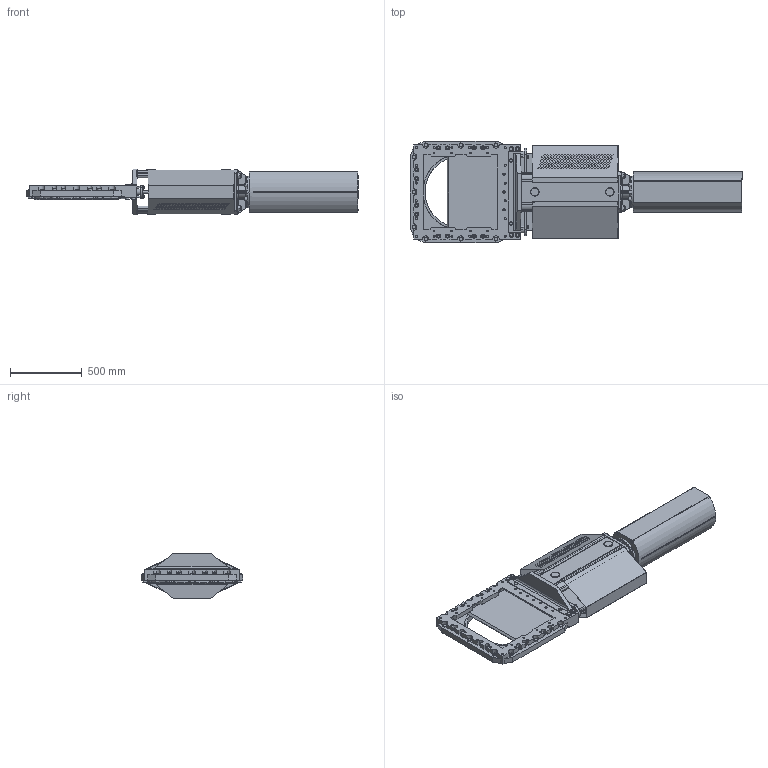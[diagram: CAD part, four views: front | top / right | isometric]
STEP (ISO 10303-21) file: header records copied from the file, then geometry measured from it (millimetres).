
FILE_DESCRIPTION(('STEP AP203'),'1');
FILE_NAME('F:/Alexander/tillfällig/RKO-DN500-EC250.stp','2013-04-10T12:06:58',(' '),(' '),'Spatial InterOp 3D',' ',' ');
FILE_SCHEMA(('CONFIG_CONTROL_DESIGN'));
Length unit declared in the file: millimetre
Products named in the file (3): 1; 2; 3
Bounding box: 2320 x 710 x 320 mm (x, y, z)
Volume: 58813327.3 mm3; surface area: 8094499.5 mm2
Topology: 3 solids, 40 shells, 4083 faces, 10547 edges, 6761 vertices
Faces by surface type: cylinder 1686, plane 1589, cone 702, torus 70, sphere 32, bspline 4
Entity records: 127673 total; most frequent: CARTESIAN_POINT 25796, DIRECTION 22159, ORIENTED_EDGE 20982, EDGE_CURVE 10491, AXIS2_PLACEMENT_3D 8464, VERTEX_POINT 6761, LINE 5231, VECTOR 5231
